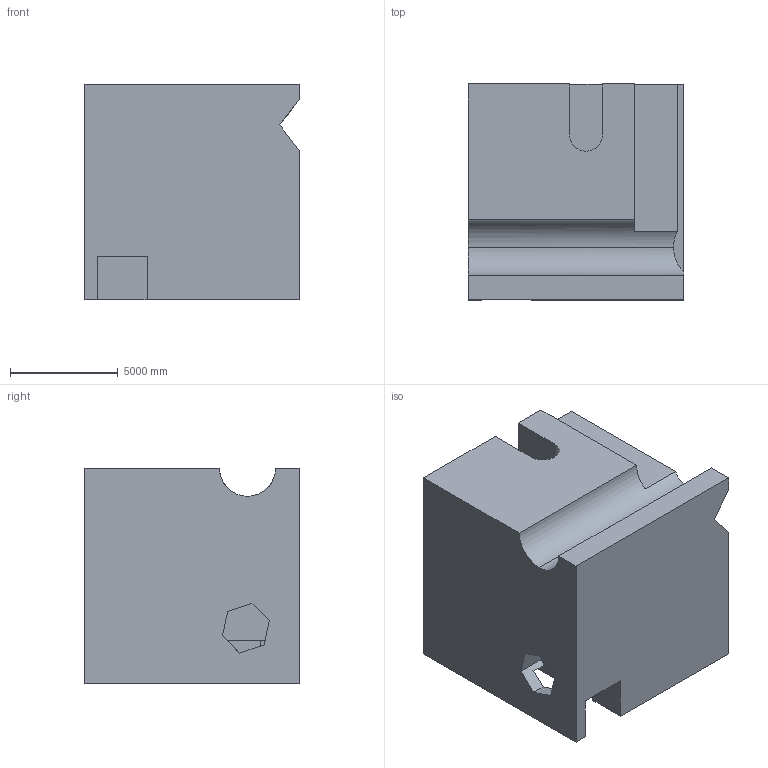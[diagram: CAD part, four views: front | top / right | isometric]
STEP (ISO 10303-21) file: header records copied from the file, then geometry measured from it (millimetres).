
FILE_DESCRIPTION (( 'STEP AP203' ), '1' );
FILE_NAME ('1604.STEP', '2022-08-18T16:06:01', ( 'user' ), ( '' ), 'SwSTEP 2.0', 'SolidWorks 2021', '' );
FILE_SCHEMA (( 'CONFIG_CONTROL_DESIGN' ));
Length unit declared in the file: centimetre
Products named in the file (1): 1604
Bounding box: 10000 x 10000 x 10000 mm (x, y, z)
Volume: 892120768556 mm3; surface area: 660097434.4 mm2
Topology: 1 solids, 1 shells, 35 faces, 102 edges, 68 vertices
Faces by surface type: plane 32, cylinder 3
Entity records: 1223 total; most frequent: CARTESIAN_POINT 212, ORIENTED_EDGE 204, DIRECTION 178, EDGE_CURVE 102, VECTOR 94, LINE 94, VERTEX_POINT 68, AXIS2_PLACEMENT_3D 42
